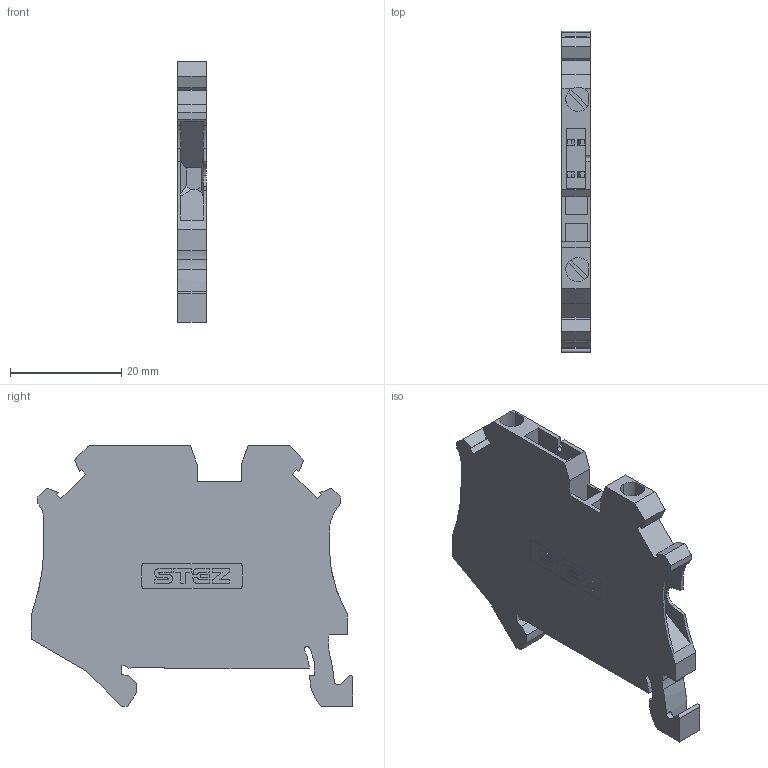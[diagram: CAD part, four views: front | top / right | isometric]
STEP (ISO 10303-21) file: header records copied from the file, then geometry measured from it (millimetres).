
FILE_DESCRIPTION(('TFLEX Exchange Step'),'2;1');
FILE_NAME('11200000_КНВ_2,5-2-ВСТ.stp', '2024-03-13T11:43:11+03:00',('apanin'),('Unknown organisation'),'TFLEX Exchange 2023.2','T-FLEX CAD','Unknown authorisation');
FILE_SCHEMA( ('AUTOMOTIVE_DESIGN { 1 0 10303 214 1 1 1 1 }') );
Length unit declared in the file: millimetre
Products named in the file (1): Тело_1 - UT_2.5-TG-select:1
Bounding box: 5.15 x 57.8 x 46.85 mm (x, y, z)
Volume: 8841.5 mm3; surface area: 6601 mm2
Topology: 1 solids, 1 shells, 416 faces, 1200 edges, 798 vertices
Faces by surface type: plane 215, cylinder 198, extrusion 3
Entity records: 13937 total; most frequent: CARTESIAN_POINT 2513, DIRECTION 2436, ORIENTED_EDGE 2400, EDGE_CURVE 1200, AXIS2_PLACEMENT_3D 824, VERTEX_POINT 798, VECTOR 788, LINE 785
